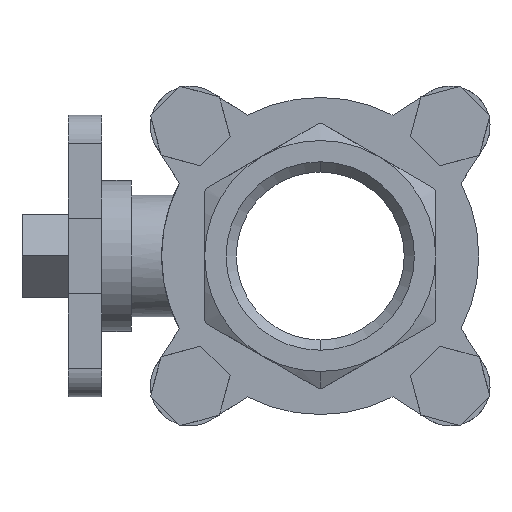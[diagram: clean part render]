
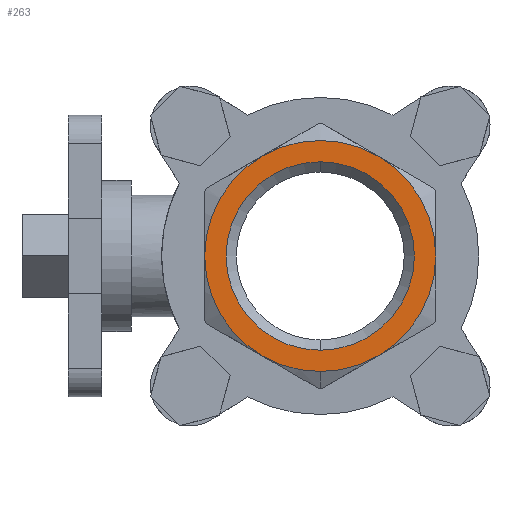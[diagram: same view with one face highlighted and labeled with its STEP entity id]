
A CAD part, left-side view. The second image highlights one B-rep face of the part: STEP entity #263.
In plain terms, the highlighted planar face has unit normal (-1, 0, 0).
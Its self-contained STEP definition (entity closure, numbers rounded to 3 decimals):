
#121 = DIRECTION ( 'NONE',  ( -1., 0., 0. ) ) ;
#128 = DIRECTION ( 'NONE',  ( -1., 0., 0. ) ) ;
#193 = CARTESIAN_POINT ( 'NONE',  ( -51., 0., 0. ) ) ;
#263 = ADVANCED_FACE ( 'NONE', ( #7918, #852 ), #6087, .F. ) ;
#270 = AXIS2_PLACEMENT_3D ( 'NONE', #5753, #1639, #6410 ) ;
#583 = AXIS2_PLACEMENT_3D ( 'NONE', #4395, #128, #5057 ) ;
#788 = DIRECTION ( 'NONE',  ( 1., 0., 0. ) ) ;
#841 = ORIENTED_EDGE ( 'NONE', *, *, #4342, .T. ) ;
#852 = FACE_OUTER_BOUND ( 'NONE', #8404, .T. ) ;
#934 = DIRECTION ( 'NONE',  ( 0., 0., 1. ) ) ;
#1109 = CARTESIAN_POINT ( 'NONE',  ( -51., -27.5, 0. ) ) ;
#1118 = CARTESIAN_POINT ( 'NONE',  ( -51., 27.5, 0. ) ) ;
#1298 = DIRECTION ( 'NONE',  ( 0., 0., -1. ) ) ;
#1307 = ORIENTED_EDGE ( 'NONE', *, *, #6599, .T. ) ;
#1333 = AXIS2_PLACEMENT_3D ( 'NONE', #5611, #1500, #6279 ) ;
#1499 = AXIS2_PLACEMENT_3D ( 'NONE', #3890, #8540, #4539 ) ;
#1500 = DIRECTION ( 'NONE',  ( -1., 0., 0. ) ) ;
#1521 = CIRCLE ( 'NONE', #8484, 22.425 ) ;
#1613 = CARTESIAN_POINT ( 'NONE',  ( -51., 0., -22.425 ) ) ;
#1622 = CIRCLE ( 'NONE', #8892, 27.5 ) ;
#1639 = DIRECTION ( 'NONE',  ( -1., 0., 0. ) ) ;
#1677 = EDGE_CURVE ( 'NONE', #7191, #6370, #1521, .T. ) ;
#1728 = CARTESIAN_POINT ( 'NONE',  ( -51., 13.75, -23.816 ) ) ;
#1776 = VERTEX_POINT ( 'NONE', #4698 ) ;
#1855 = DIRECTION ( 'NONE',  ( -1., 0., 0. ) ) ;
#1918 = CARTESIAN_POINT ( 'NONE',  ( -51., 22.425, 0. ) ) ;
#2021 = EDGE_CURVE ( 'NONE', #3949, #7858, #8096, .T. ) ;
#2128 = EDGE_CURVE ( 'NONE', #8921, #3949, #1622, .T. ) ;
#2275 = CARTESIAN_POINT ( 'NONE',  ( -51., -13.75, -23.816 ) ) ;
#2320 = AXIS2_PLACEMENT_3D ( 'NONE', #4388, #121, #5050 ) ;
#2394 = CIRCLE ( 'NONE', #5557, 27.5 ) ;
#2492 = DIRECTION ( 'NONE',  ( -1., 0., 0. ) ) ;
#2802 = EDGE_CURVE ( 'NONE', #7399, #8921, #5145, .T. ) ;
#2819 = AXIS2_PLACEMENT_3D ( 'NONE', #193, #5109, #934 ) ;
#3162 = AXIS2_PLACEMENT_3D ( 'NONE', #1918, #788, #1298 ) ;
#3252 = CIRCLE ( 'NONE', #2819, 27.5 ) ;
#3310 = EDGE_CURVE ( 'NONE', #6370, #7191, #4711, .T. ) ;
#3478 = DIRECTION ( 'NONE',  ( -1., 0., 0. ) ) ;
#3890 = CARTESIAN_POINT ( 'NONE',  ( -51., 0., 0. ) ) ;
#3949 = VERTEX_POINT ( 'NONE', #8244 ) ;
#3951 = VERTEX_POINT ( 'NONE', #8893 ) ;
#4342 = EDGE_CURVE ( 'NONE', #3951, #7399, #8884, .T. ) ;
#4388 = CARTESIAN_POINT ( 'NONE',  ( -51., 0., 0. ) ) ;
#4395 = CARTESIAN_POINT ( 'NONE',  ( -51., 0., 0. ) ) ;
#4539 = DIRECTION ( 'NONE',  ( 0., 0., 1. ) ) ;
#4562 = ORIENTED_EDGE ( 'NONE', *, *, #2802, .T. ) ;
#4598 = VERTEX_POINT ( 'NONE', #1109 ) ;
#4698 = CARTESIAN_POINT ( 'NONE',  ( -51., -13.75, 23.816 ) ) ;
#4711 = CIRCLE ( 'NONE', #270, 22.425 ) ;
#4980 = ORIENTED_EDGE ( 'NONE', *, *, #8807, .T. ) ;
#5050 = DIRECTION ( 'NONE',  ( 0., 0., 1. ) ) ;
#5057 = DIRECTION ( 'NONE',  ( 0., 0., 1. ) ) ;
#5109 = DIRECTION ( 'NONE',  ( -1., 0., 0. ) ) ;
#5145 = CIRCLE ( 'NONE', #1333, 27.5 ) ;
#5557 = AXIS2_PLACEMENT_3D ( 'NONE', #5936, #1855, #6605 ) ;
#5611 = CARTESIAN_POINT ( 'NONE',  ( -51., 0., 0. ) ) ;
#5753 = CARTESIAN_POINT ( 'NONE',  ( -51., 0., 0. ) ) ;
#5936 = CARTESIAN_POINT ( 'NONE',  ( -51., 0., 0. ) ) ;
#6087 = PLANE ( 'NONE',  #3162 ) ;
#6117 = ORIENTED_EDGE ( 'NONE', *, *, #3310, .F. ) ;
#6279 = DIRECTION ( 'NONE',  ( 0., 0., 1. ) ) ;
#6335 = ORIENTED_EDGE ( 'NONE', *, *, #2128, .T. ) ;
#6370 = VERTEX_POINT ( 'NONE', #1613 ) ;
#6410 = DIRECTION ( 'NONE',  ( 0., 0., 1. ) ) ;
#6509 = CARTESIAN_POINT ( 'NONE',  ( -51., 0., 0. ) ) ;
#6599 = EDGE_CURVE ( 'NONE', #7858, #4598, #2394, .T. ) ;
#6605 = DIRECTION ( 'NONE',  ( 0., 0., 1. ) ) ;
#6978 = CIRCLE ( 'NONE', #2320, 27.5 ) ;
#7179 = DIRECTION ( 'NONE',  ( 0., 0., 1. ) ) ;
#7191 = VERTEX_POINT ( 'NONE', #7755 ) ;
#7399 = VERTEX_POINT ( 'NONE', #1118 ) ;
#7456 = CARTESIAN_POINT ( 'NONE',  ( -51., 0., 0. ) ) ;
#7707 = ORIENTED_EDGE ( 'NONE', *, *, #1677, .F. ) ;
#7755 = CARTESIAN_POINT ( 'NONE',  ( -51., 0., 22.425 ) ) ;
#7858 = VERTEX_POINT ( 'NONE', #2275 ) ;
#7918 = FACE_BOUND ( 'NONE', #8104, .T. ) ;
#8096 = CIRCLE ( 'NONE', #1499, 27.5 ) ;
#8104 = EDGE_LOOP ( 'NONE', ( #7707, #6117 ) ) ;
#8134 = DIRECTION ( 'NONE',  ( 0., 0., 1. ) ) ;
#8244 = CARTESIAN_POINT ( 'NONE',  ( -51., 0., -27.5 ) ) ;
#8325 = ORIENTED_EDGE ( 'NONE', *, *, #2021, .T. ) ;
#8404 = EDGE_LOOP ( 'NONE', ( #841, #4562, #6335, #8325, #1307, #4980, #8533 ) ) ;
#8484 = AXIS2_PLACEMENT_3D ( 'NONE', #6509, #2492, #7179 ) ;
#8533 = ORIENTED_EDGE ( 'NONE', *, *, #8739, .T. ) ;
#8540 = DIRECTION ( 'NONE',  ( -1., 0., 0. ) ) ;
#8739 = EDGE_CURVE ( 'NONE', #1776, #3951, #6978, .T. ) ;
#8807 = EDGE_CURVE ( 'NONE', #4598, #1776, #3252, .T. ) ;
#8884 = CIRCLE ( 'NONE', #583, 27.5 ) ;
#8892 = AXIS2_PLACEMENT_3D ( 'NONE', #7456, #3478, #8134 ) ;
#8893 = CARTESIAN_POINT ( 'NONE',  ( -51., 13.75, 23.816 ) ) ;
#8921 = VERTEX_POINT ( 'NONE', #1728 ) ;
